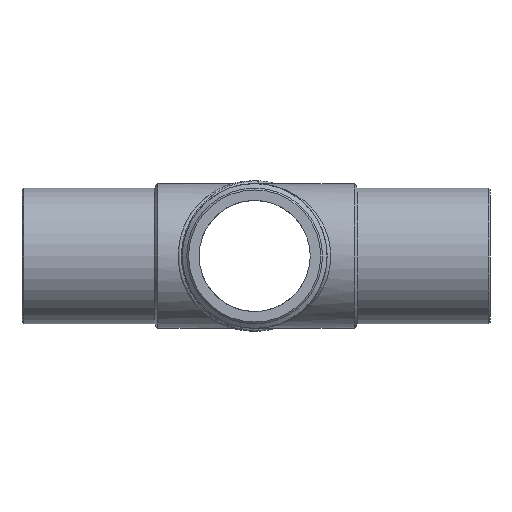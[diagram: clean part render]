
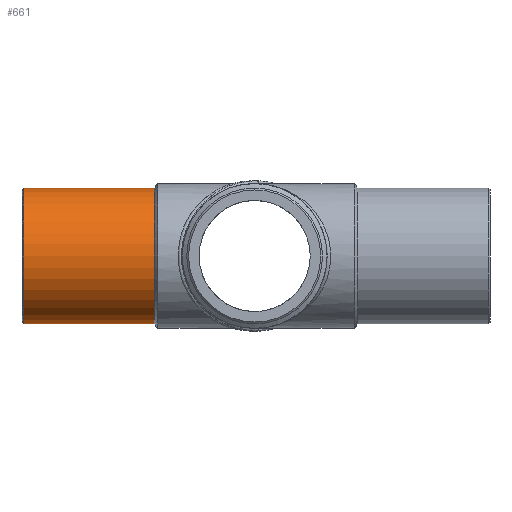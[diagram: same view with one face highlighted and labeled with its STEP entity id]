
A CAD part, front view. The second image highlights one B-rep face of the part: STEP entity #661.
In plain terms, the highlighted cylindrical face has radius 37.5 mm (diameter 75 mm), a full revolution.
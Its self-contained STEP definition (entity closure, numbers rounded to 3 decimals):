
#116=CIRCLE('',#724,37.5);
#117=CIRCLE('',#726,37.5);
#146=ORIENTED_EDGE('',*,*,#341,.T.);
#147=ORIENTED_EDGE('',*,*,#340,.T.);
#340=EDGE_CURVE('',#438,#438,#116,.T.);
#341=EDGE_CURVE('',#439,#439,#117,.T.);
#438=VERTEX_POINT('',#940);
#439=VERTEX_POINT('',#943);
#536=EDGE_LOOP('',(#146));
#537=EDGE_LOOP('',(#147));
#594=FACE_BOUND('',#536,.T.);
#595=FACE_BOUND('',#537,.T.);
#648=CYLINDRICAL_SURFACE('',#725,37.5);
#661=ADVANCED_FACE('',(#594,#595),#648,.T.);
#724=AXIS2_PLACEMENT_3D('',#939,#796,#797);
#725=AXIS2_PLACEMENT_3D('',#941,#798,#799);
#726=AXIS2_PLACEMENT_3D('',#942,#800,#801);
#796=DIRECTION('',(-1.,0.,0.));
#797=DIRECTION('',(0.,0.,1.));
#798=DIRECTION('',(-1.,0.,0.));
#799=DIRECTION('',(0.,0.,1.));
#800=DIRECTION('',(1.,0.,0.));
#801=DIRECTION('',(0.,0.,-1.));
#939=CARTESIAN_POINT('',(-55.5,0.,0.));
#940=CARTESIAN_POINT('',(-55.5,0.,37.5));
#941=CARTESIAN_POINT('',(-60.,0.,0.));
#942=CARTESIAN_POINT('',(-127.5,0.,0.));
#943=CARTESIAN_POINT('',(-127.5,0.,-37.5));
